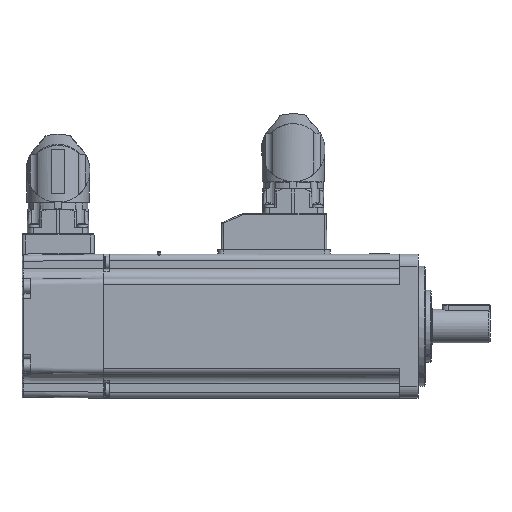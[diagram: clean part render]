
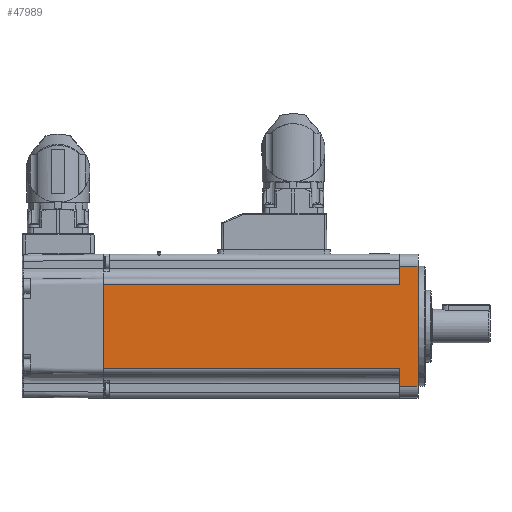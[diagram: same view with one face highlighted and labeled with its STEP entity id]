
A CAD part, left-side view. The second image highlights one B-rep face of the part: STEP entity #47989.
In plain terms, the highlighted planar face has unit normal (-1, 0, 0).
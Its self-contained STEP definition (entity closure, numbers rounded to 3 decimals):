
#1930=LINE('',#72146,#5272);
#1953=LINE('',#72226,#5295);
#1954=LINE('',#72230,#5296);
#1955=LINE('',#72233,#5297);
#1956=LINE('',#72235,#5298);
#1957=LINE('',#72237,#5299);
#1958=LINE('',#72239,#5300);
#1959=LINE('',#72240,#5301);
#5272=VECTOR('',#57415,1000.);
#5295=VECTOR('',#57478,1000.);
#5296=VECTOR('',#57483,1000.);
#5297=VECTOR('',#57484,1000.);
#5298=VECTOR('',#57485,1000.);
#5299=VECTOR('',#57486,1000.);
#5300=VECTOR('',#57487,1000.);
#5301=VECTOR('',#57488,1000.);
#8869=PLANE('',#51437);
#11871=ORIENTED_EDGE('',*,*,#25506,.T.);
#11872=ORIENTED_EDGE('',*,*,#25507,.T.);
#11873=ORIENTED_EDGE('',*,*,#25508,.T.);
#11874=ORIENTED_EDGE('',*,*,#25509,.F.);
#11875=ORIENTED_EDGE('',*,*,#25510,.T.);
#11876=ORIENTED_EDGE('',*,*,#25464,.T.);
#11877=ORIENTED_EDGE('',*,*,#25504,.T.);
#11878=ORIENTED_EDGE('',*,*,#25511,.F.);
#25464=EDGE_CURVE('',#39002,#39001,#1930,.T.);
#25504=EDGE_CURVE('',#39001,#39039,#1953,.F.);
#25506=EDGE_CURVE('',#39040,#39041,#1954,.T.);
#25507=EDGE_CURVE('',#39041,#39042,#1955,.T.);
#25508=EDGE_CURVE('',#39042,#39043,#1956,.T.);
#25509=EDGE_CURVE('',#39044,#39043,#1957,.T.);
#25510=EDGE_CURVE('',#39044,#39002,#1958,.T.);
#25511=EDGE_CURVE('',#39040,#39039,#1959,.T.);
#34738=EDGE_LOOP('',(#11871,#11872,#11873,#11874,#11875,#11876,#11877,#11878));
#39001=VERTEX_POINT('',#72145);
#39002=VERTEX_POINT('',#72147);
#39039=VERTEX_POINT('',#72227);
#39040=VERTEX_POINT('',#72231);
#39041=VERTEX_POINT('',#72232);
#39042=VERTEX_POINT('',#72234);
#39043=VERTEX_POINT('',#72236);
#39044=VERTEX_POINT('',#72238);
#43916=FACE_BOUND('',#34738,.T.);
#47989=ADVANCED_FACE('',(#43916),#8869,.T.);
#51437=AXIS2_PLACEMENT_3D('',#72229,#57481,#57482);
#57415=DIRECTION('',(0.,0.,1.));
#57478=DIRECTION('',(0.,-1.,0.));
#57481=DIRECTION('',(-1.,0.,0.));
#57482=DIRECTION('',(0.,0.,1.));
#57483=DIRECTION('',(0.,1.,0.));
#57484=DIRECTION('',(0.,0.,-1.));
#57485=DIRECTION('',(0.,-1.,0.));
#57486=DIRECTION('',(0.,0.,1.));
#57487=DIRECTION('',(0.,-1.,0.));
#57488=DIRECTION('',(0.,0.,1.));
#72145=CARTESIAN_POINT('',(-30.,-24.3,25.));
#72146=CARTESIAN_POINT('',(-30.,-24.3,30.));
#72147=CARTESIAN_POINT('',(-30.,-24.3,-25.));
#72226=CARTESIAN_POINT('',(-30.,145.145,25.));
#72227=CARTESIAN_POINT('',(-30.,-16.7,25.));
#72229=CARTESIAN_POINT('',(-30.,145.145,30.));
#72230=CARTESIAN_POINT('',(-30.,145.145,17.5));
#72231=CARTESIAN_POINT('',(-30.,-16.7,17.5));
#72232=CARTESIAN_POINT('',(-30.,106.7,17.5));
#72233=CARTESIAN_POINT('',(-30.,106.7,-30.));
#72234=CARTESIAN_POINT('',(-30.,106.7,-17.5));
#72235=CARTESIAN_POINT('',(-30.,145.145,-17.5));
#72236=CARTESIAN_POINT('',(-30.,-16.7,-17.5));
#72237=CARTESIAN_POINT('',(-30.,-16.7,30.));
#72238=CARTESIAN_POINT('',(-30.,-16.7,-25.));
#72239=CARTESIAN_POINT('',(-30.,145.145,-25.));
#72240=CARTESIAN_POINT('',(-30.,-16.7,30.));
